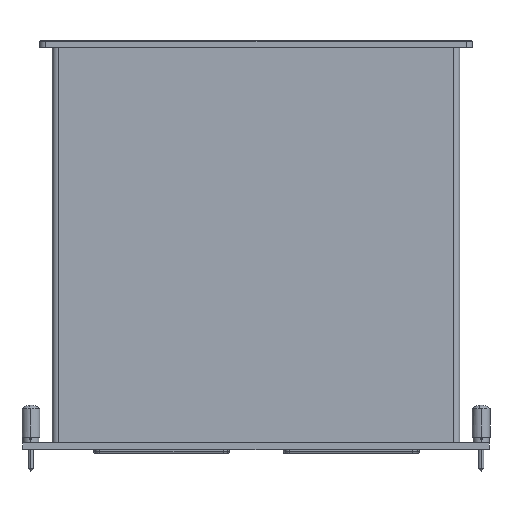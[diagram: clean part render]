
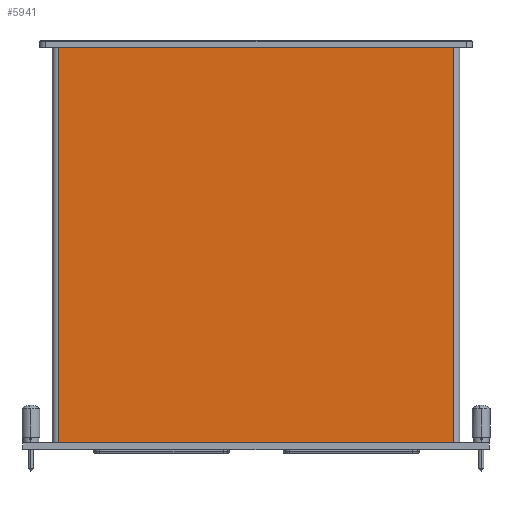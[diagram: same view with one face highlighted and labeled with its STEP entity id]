
A CAD part, front view. The second image highlights one B-rep face of the part: STEP entity #5941.
In plain terms, the highlighted planar face has unit normal (0, -1, 0).
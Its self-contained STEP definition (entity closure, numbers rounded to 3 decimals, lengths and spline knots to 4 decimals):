
#782=DIRECTION('',(0.,0.,-1.));
#783=VECTOR('',#782,5.77);
#784=CARTESIAN_POINT('',(-2.885,-0.5892,0.));
#785=LINE('',#784,#783);
#791=DIRECTION('',(-1.,0.,0.));
#792=VECTOR('',#791,5.77);
#793=CARTESIAN_POINT('',(2.885,-0.5892,0.));
#794=LINE('',#793,#792);
#795=DIRECTION('',(0.,0.,-1.));
#796=VECTOR('',#795,5.77);
#797=CARTESIAN_POINT('',(2.885,-0.5892,0.));
#798=LINE('',#797,#796);
#799=DIRECTION('',(-1.,0.,0.));
#800=VECTOR('',#799,5.77);
#801=CARTESIAN_POINT('',(2.885,-0.5892,-5.77));
#802=LINE('',#801,#800);
#4114=CARTESIAN_POINT('',(2.885,-0.5892,-5.77));
#4115=VERTEX_POINT('',#4114);
#4116=CARTESIAN_POINT('',(-2.885,-0.5892,-5.77));
#4117=VERTEX_POINT('',#4116);
#4518=CARTESIAN_POINT('',(2.885,-0.5892,0.));
#4519=VERTEX_POINT('',#4518);
#4520=CARTESIAN_POINT('',(-2.885,-0.5892,0.));
#4521=VERTEX_POINT('',#4520);
#5928=CARTESIAN_POINT('',(2.885,-0.5892,0.));
#5929=DIRECTION('',(0.,-1.,0.));
#5930=DIRECTION('',(-1.,0.,0.));
#5931=AXIS2_PLACEMENT_3D('',#5928,#5929,#5930);
#5932=PLANE('',#5931);
#5933=ORIENTED_EDGE('',*,*,#5062,.F.);
#5935=ORIENTED_EDGE('',*,*,#5934,.T.);
#5937=ORIENTED_EDGE('',*,*,#5936,.T.);
#5938=ORIENTED_EDGE('',*,*,#5920,.F.);
#5939=EDGE_LOOP('',(#5933,#5935,#5937,#5938));
#5940=FACE_OUTER_BOUND('',#5939,.F.);
#5941=ADVANCED_FACE('',(#5940),#5932,.T.);
#5062=EDGE_CURVE('',#4519,#4521,#794,.T.);
#5920=EDGE_CURVE('',#4521,#4117,#785,.T.);
#5934=EDGE_CURVE('',#4519,#4115,#798,.T.);
#5936=EDGE_CURVE('',#4115,#4117,#802,.T.);
